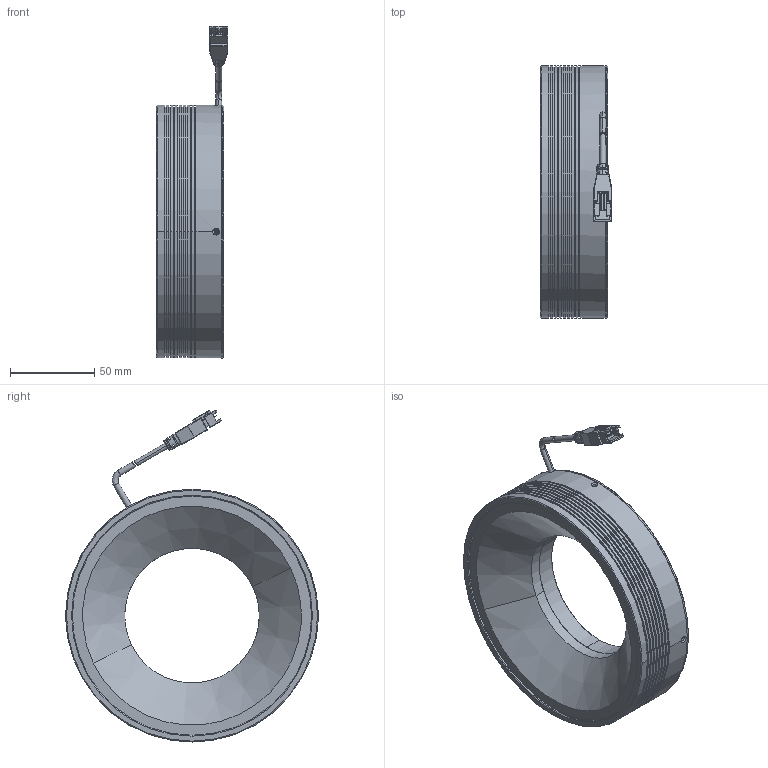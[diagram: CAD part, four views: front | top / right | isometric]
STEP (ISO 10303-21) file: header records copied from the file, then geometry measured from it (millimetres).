
FILE_DESCRIPTION (( 'STEP AP214' ), '1' );
FILE_NAME ('CST-FRS150-¼òÒ×3DÍ¼.STEP', '2022-06-16T07:43:29', ( '' ), ( '' ), 'SwSTEP 2.0', 'SolidWorks 2018', '' );
FILE_SCHEMA (( 'AUTOMOTIVE_DESIGN' ));
Length unit declared in the file: millimetre
Products named in the file (2): CST-FRS150-潠眢3D芞
Bounding box: 42.35 x 150 x 197.12 mm (x, y, z)
Surface area: 120121.2 mm2 (no closed solid volume)
Topology: 0 solids, 5 shells, 351 faces, 906 edges, 555 vertices
Faces by surface type: cylinder 142, plane 139, cone 36, bspline 28, torus 6
Entity records: 15435 total; most frequent: CARTESIAN_POINT 3190, DIRECTION 1744, ORIENTED_EDGE 1701, EDGE_CURVE 874, AXIS2_PLACEMENT_3D 635, VERTEX_POINT 555, VECTOR 474, LINE 474
